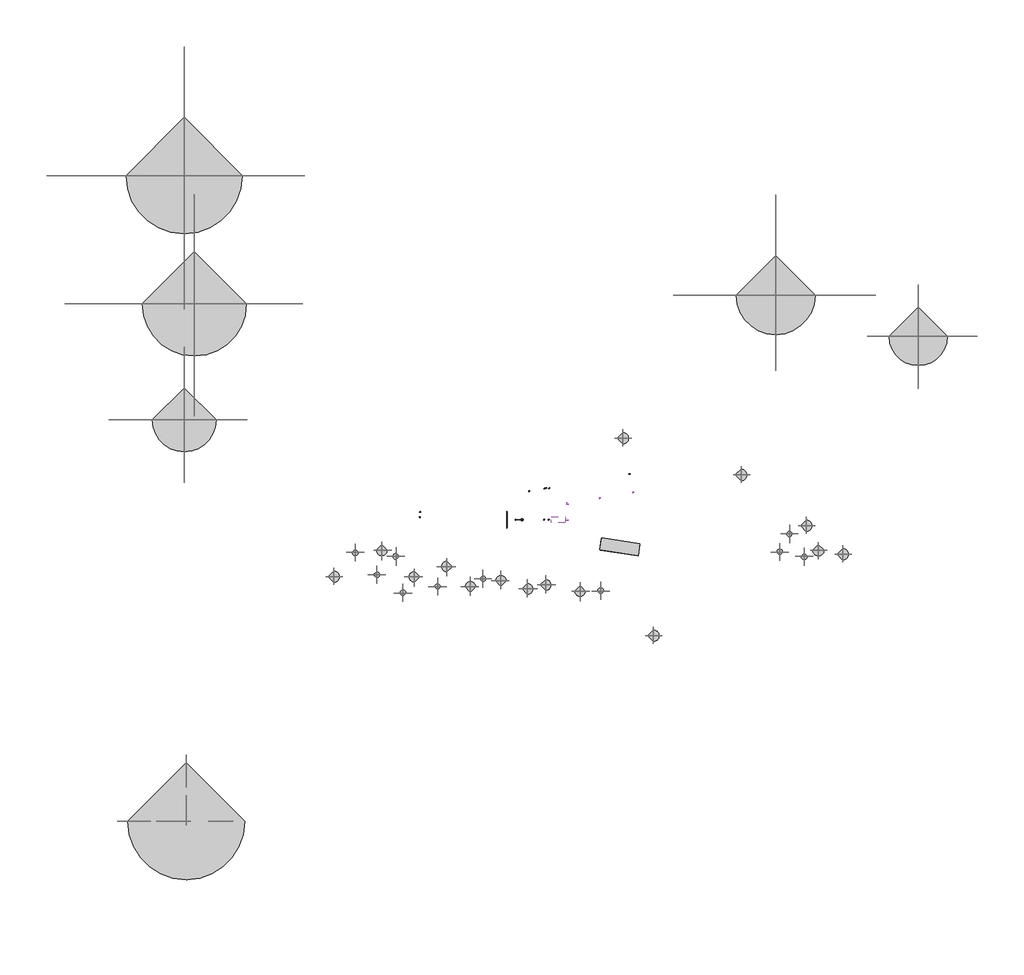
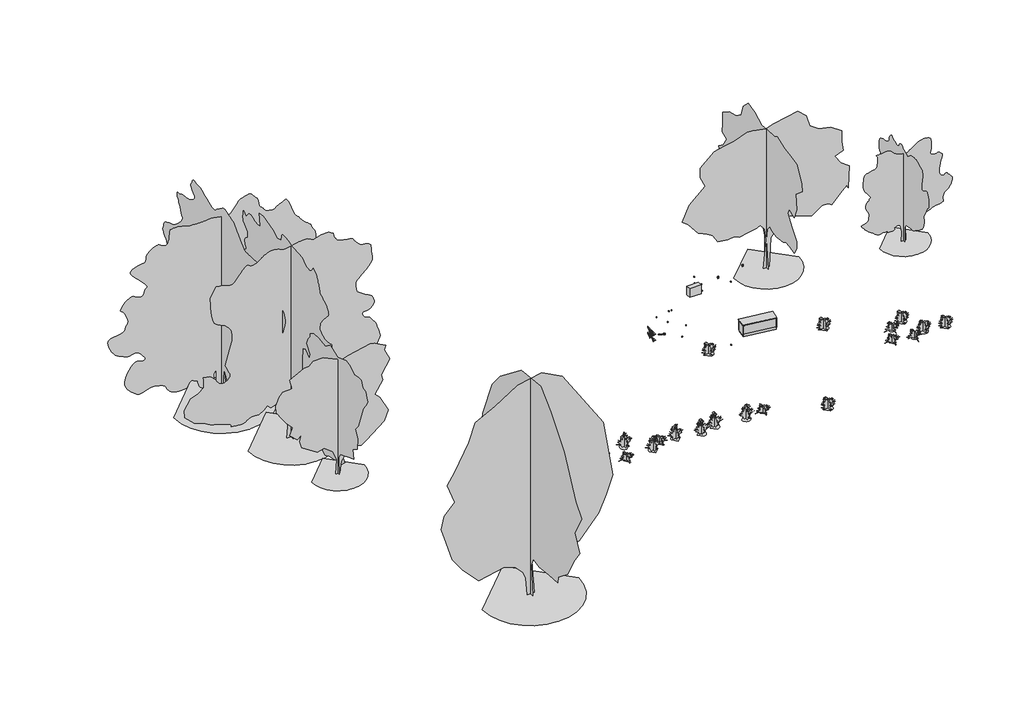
# One storey, incomplete: 31 geographic elements, 17 pipe fittings, 5 plates, 2 light fixtures, 1 flow terminal, 1 furniture element, 1 proxy.
"""IFC4 building model written with IfcOpenShell, lengths in millimetres."""

from ifc_helpers import new_model, si_unit, frame, origin, place, context, project, spatial, ellipse_curve, transform, mapped, element, save
from ifc_brep_helpers import cylinder_surface, advanced_brep
from components import mechanical_equipment_373eb770, flow_terminal_e5477665, furniture_e93fa93d, geographic_element_1685f993, geographic_element_d6f29d71, geographic_element_3415abb8, geographic_element_72aa0b57, geographic_element_be49fed4, geographic_element_74743c11, carvalho_de_shumard_12_2_metros_a262d815, carvalho_americano_12_5_metros_13b38d7d, corniso_9_2_metros_c94a29e7, tue_alta_10251bba, pipe_fitting_cfdc0b9c, pipe_fitting_fefc82c8, pipe_fitting_5beb446b, pipe_fitting_e3d966fa, plate_190a94d3

model = new_model("IFC4")

# Units and contexts
model_context = context("Model", 3, world=origin())
ifc_project = project(units=[si_unit("LENGTHUNIT", "METRE", prefix="MILLI")], contexts=[model_context])

# Site, building, storey
site = spatial("IfcSite", under=ifc_project)
building = spatial("IfcBuilding", under=site)
storey = spatial("IfcBuildingStorey", under=building, Name="MEZANINO", Elevation=3000.0)

# Proxy
placement = place(None, origin())
mechanical_equipment_shape = mechanical_equipment_373eb770(model_context)
element("IfcBuildingElementProxy", 1, Name="Unidade Condensadora - Sistema Split AC - 1-4 kW : Padrão", ObjectType="Unidade Condensadora - Sistema Split AC - 1-4 kW : Padrão", at=placement, inside=storey, context=model_context, shape_type="MappedRepresentation", body=[
    mapped(mechanical_equipment_shape, transform((130056.1500577, -75691.0255541, 5500.0), x_axis=(0.0, 1.0, 0.0), y_axis=(-1.0, 0.0, 0.0), z_axis=(0.0, 0.0, 1.0))),
])

# Flow terminal
flow_terminal_shape = flow_terminal_e5477665(model_context)
element("IfcFlowTerminal", 2, ObjectType="Torneira boia - Fortlev : 1/2\"", at=placement, inside=storey, context=model_context, shape_type="MappedRepresentation", body=[
    mapped(flow_terminal_shape, transform((127588.9607606, -75543.0255541, 3705.0), x_axis=(0.0, 1.0, 0.0), y_axis=(-1.0, 0.0, 0.0), z_axis=(0.0, 0.0, 1.0))),
])

# Furniture
furniture_shape = furniture_e93fa93d(model_context)
element("IfcFurniture", 3, ObjectType="Armário linear baixo : Profundidade 60", at=placement, inside=storey, context=model_context, shape_type="MappedRepresentation", body=[
    mapped(furniture_shape, transform((132726.5084128, -76872.2314943, 3000.0), x_axis=(-0.9890370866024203, 0.1476673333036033, 0.0), y_axis=(-0.1476673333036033, -0.9890370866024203, 0.0), z_axis=(0.0, 0.0, 1.0))),
])

# Geographic elements
geographic_element_shape = geographic_element_1685f993(model_context)
element("IfcGeographicElement", 4, ObjectType="RPC Vegetação - Tropical : Piteira - 0,45 metros", at=placement, inside=storey, context=model_context, shape_type="MappedRepresentation", body=[
    mapped(geographic_element_shape, transform((125984.7157196, -78442.4724758, -824.6936212), x_axis=(0.0, 1.0, 0.0), y_axis=(-1.0, 0.0, 0.0), z_axis=(0.0, 0.0, 1.0))),
])
element("IfcGeographicElement", 5, ObjectType="RPC Vegetação - Tropical : Piteira - 0,45 metros", at=placement, inside=storey, context=model_context, shape_type="MappedRepresentation", body=[
    mapped(geographic_element_shape, transform((123776.1776463, -78843.3106609, -869.2622276), x_axis=(-1.0, 0.0, 0.0), y_axis=(0.0, -1.0, 0.0), z_axis=(0.0, 0.0, 1.0))),
])
element("IfcGeographicElement", 6, ObjectType="RPC Vegetação - Tropical : Piteira - 0,45 metros", at=placement, inside=storey, context=model_context, shape_type="MappedRepresentation", body=[
    mapped(geographic_element_shape, transform((121734.7119017, -77341.9541899, -650.0262358), x_axis=(0.0, -1.0, 0.0), y_axis=(1.0, 0.0, 0.0), z_axis=(0.0, 0.0, 1.0))),
])
element("IfcGeographicElement", 7, ObjectType="RPC Vegetação - Tropical : Piteira - 0,45 metros", at=placement, inside=storey, context=model_context, shape_type="MappedRepresentation", body=[
    mapped(geographic_element_shape, transform((119733.6871628, -77144.8026126, -829.5801195), x_axis=(1.0000000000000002, 0.0, 0.0), y_axis=(0.0, 1.0000000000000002, 0.0), z_axis=(0.0, 0.0, 1.0))),
])
element("IfcGeographicElement", 8, ObjectType="RPC Vegetação - Tropical : Piteira - 0,45 metros", at=placement, inside=storey, context=model_context, shape_type="MappedRepresentation", body=[
    mapped(geographic_element_shape, transform((120776.9345031, -78243.4225721, -902.4526485), x_axis=(0.0, 1.0, 0.0), y_axis=(-1.0, 0.0, 0.0), z_axis=(0.0, 0.0, 1.0))),
])
element("IfcGeographicElement", 9, ObjectType="RPC Vegetação - Tropical : Piteira - 0,45 metros", at=placement, inside=storey, context=model_context, shape_type="MappedRepresentation", body=[
    mapped(geographic_element_shape, transform((122076.2303047, -79144.0449695, -904.3152505), x_axis=(-1.0, 0.0, 0.0), y_axis=(0.0, -1.0, 0.0), z_axis=(0.0, 0.0, 1.0))),
])
element("IfcGeographicElement", 10, ObjectType="RPC Vegetação - Tropical : Piteira - 0,45 metros", at=placement, inside=storey, context=model_context, shape_type="MappedRepresentation", body=[
    mapped(geographic_element_shape, transform((131785.0021808, -79042.9814065, -550.8813332), x_axis=(-1.0, 0.0, 0.0), y_axis=(0.0, -1.0, 0.0), z_axis=(0.0, 0.0, 1.0))),
])
element("IfcGeographicElement", 11, ObjectType="RPC Vegetação - Tropical : Piteira - 0,45 metros", at=placement, inside=storey, context=model_context, shape_type="MappedRepresentation", body=[
    mapped(geographic_element_shape, transform((140576.0686391, -77142.7114103, -354.5874397), x_axis=(-1.0, 0.0, 0.0), y_axis=(0.0, -1.0, 0.0), z_axis=(0.0, 0.0, 1.0))),
])
element("IfcGeographicElement", 12, ObjectType="RPC Vegetação - Tropical : Piteira - 0,45 metros", at=placement, inside=storey, context=model_context, shape_type="MappedRepresentation", body=[
    mapped(geographic_element_shape, transform((141076.0148435, -76242.9706433, -326.0883719), x_axis=(0.0, -1.0, 0.0), y_axis=(1.0, 0.0, 0.0), z_axis=(0.0, 0.0, 1.0))),
])
element("IfcGeographicElement", 13, ObjectType="RPC Vegetação - Tropical : Piteira - 0,45 metros", at=placement, inside=storey, context=model_context, shape_type="MappedRepresentation", body=[
    mapped(geographic_element_shape, transform((141775.8181724, -77342.9461297, -386.7027736), x_axis=(1.0000000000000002, 0.0, 0.0), y_axis=(0.0, 1.0000000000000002, 0.0), z_axis=(0.0, 0.0, 1.0))),
])
geographic_element_2_shape = geographic_element_d6f29d71(model_context)
element("IfcGeographicElement", 14, ObjectType="RPC Vegetação - Tropical : Ave-do-paraíso - 0,9 metros", at=placement, inside=storey, context=model_context, shape_type="MappedRepresentation", body=[
    mapped(geographic_element_2_shape, transform((130775.8283927, -79042.6485025, -588.6315481), x_axis=(1.0, 0.0, 0.0), y_axis=(0.0, 1.0, 0.0), z_axis=(0.0, 0.0, 1.0))),
])
element("IfcGeographicElement", 15, ObjectType="RPC Vegetação - Tropical : Ave-do-paraíso - 0,9 metros", at=placement, inside=storey, context=model_context, shape_type="MappedRepresentation", body=[
    mapped(geographic_element_2_shape, transform((129084.7814515, -78742.8137214, -680.309723), x_axis=(0.0, 1.0, 0.0), y_axis=(-1.0, 0.0, 0.0), z_axis=(0.0, 0.0, 1.0))),
])
element("IfcGeographicElement", 16, ObjectType="RPC Vegetação - Tropical : Ave-do-paraíso - 0,9 metros", at=placement, inside=storey, context=model_context, shape_type="MappedRepresentation", body=[
    mapped(geographic_element_2_shape, transform((126884.9640884, -78543.9232532, -781.4045321), x_axis=(-1.0, 0.0, 0.0), y_axis=(0.0, -1.0, 0.0), z_axis=(0.0, 0.0, 1.0))),
])
element("IfcGeographicElement", 17, ObjectType="RPC Vegetação - Tropical : Ave-do-paraíso - 0,9 metros", at=placement, inside=storey, context=model_context, shape_type="MappedRepresentation", body=[
    mapped(geographic_element_2_shape, transform((124234.751511, -77841.7446178, -791.7470178), x_axis=(0.0, -1.0, 0.0), y_axis=(1.0, 0.0, 0.0), z_axis=(0.0, 0.0, 1.0))),
])
element("IfcGeographicElement", 18, ObjectType="RPC Vegetação - Tropical : Ave-do-paraíso - 0,9 metros", at=placement, inside=storey, context=model_context, shape_type="MappedRepresentation", body=[
    mapped(geographic_element_2_shape, transform((121034.6395294, -77043.4528683, -599.678893), x_axis=(1.0000000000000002, 0.0, 0.0), y_axis=(0.0, 1.0000000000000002, 0.0), z_axis=(0.0, 0.0, 1.0))),
])
element("IfcGeographicElement", 19, ObjectType="RPC Vegetação - Tropical : Ave-do-paraíso - 0,9 metros", at=placement, inside=storey, context=model_context, shape_type="MappedRepresentation", body=[
    mapped(geographic_element_2_shape, transform((128184.7240806, -78942.1784051, -695.0640795), x_axis=(0.0, 1.0, 0.0), y_axis=(-1.0, 0.0, 0.0), z_axis=(0.0, 0.0, 1.0))),
])
element("IfcGeographicElement", 20, ObjectType="RPC Vegetação - Tropical : Ave-do-paraíso - 0,9 metros", at=placement, inside=storey, context=model_context, shape_type="MappedRepresentation", body=[
    mapped(geographic_element_2_shape, transform((125384.9886584, -78842.2594379, -809.2078688), x_axis=(-1.0, 0.0, 0.0), y_axis=(0.0, -1.0, 0.0), z_axis=(0.0, 0.0, 1.0))),
])
element("IfcGeographicElement", 21, ObjectType="RPC Vegetação - Tropical : Ave-do-paraíso - 0,9 metros", at=placement, inside=storey, context=model_context, shape_type="MappedRepresentation", body=[
    mapped(geographic_element_2_shape, transform((122634.7940266, -78342.713309, -873.7347311), x_axis=(0.0, -1.0, 0.0), y_axis=(1.0, 0.0, 0.0), z_axis=(0.0, 0.0, 1.0))),
])
geographic_element_3_shape = geographic_element_3415abb8(model_context)
element("IfcGeographicElement", 22, ObjectType="RPC Vegetação - Tropical : Iuca - 0,6 metros", at=placement, inside=storey, context=model_context, shape_type="MappedRepresentation", body=[
    mapped(geographic_element_3_shape, transform((142475.8181724, -77043.0255541, -370.1726259), x_axis=(1.0, 0.0, 0.0), y_axis=(0.0, 1.0, 0.0), z_axis=(0.0, 0.0, 1.0))),
])
element("IfcGeographicElement", 23, ObjectType="RPC Vegetação - Tropical : Iuca - 0,6 metros", at=placement, inside=storey, context=model_context, shape_type="MappedRepresentation", body=[
    mapped(geographic_element_3_shape, transform((138676.0088836, -73346.0843698, -1121.2914356), x_axis=(0.0, 1.0, 0.0), y_axis=(-1.0, 0.0, 0.0), z_axis=(0.0, 0.0, 1.0))),
])
element("IfcGeographicElement", 24, ObjectType="RPC Vegetação - Tropical : Iuca - 0,6 metros", at=placement, inside=storey, context=model_context, shape_type="MappedRepresentation", body=[
    mapped(geographic_element_3_shape, transform((141876.0148435, -75843.2173584, -304.0342569), x_axis=(0.0, 1.0, 0.0), y_axis=(-1.0, 0.0, 0.0), z_axis=(0.0, 0.0, 1.0))),
])
element("IfcGeographicElement", 25, ObjectType="RPC Vegetação - Tropical : Iuca - 0,6 metros", at=placement, inside=storey, context=model_context, shape_type="MappedRepresentation", body=[
    mapped(geographic_element_3_shape, transform((143676.0148435, -77243.2387117, -381.1965513), x_axis=(0.0, 1.0, 0.0), y_axis=(-1.0, 0.0, 0.0), z_axis=(0.0, 0.0, 1.0))),
])
element("IfcGeographicElement", 26, ObjectType="RPC Vegetação - Tropical : Iuca - 0,6 metros", at=placement, inside=storey, context=model_context, shape_type="MappedRepresentation", body=[
    mapped(geographic_element_3_shape, transform((132875.9852397, -71544.5889442, -1772.6947487), x_axis=(0.0, 1.0, 0.0), y_axis=(-1.0, 0.0, 0.0), z_axis=(0.0, 0.0, 1.0))),
])
element("IfcGeographicElement", 27, ObjectType="RPC Vegetação - Tropical : Iuca - 0,6 metros", at=placement, inside=storey, context=model_context, shape_type="MappedRepresentation", body=[
    mapped(geographic_element_3_shape, transform((118676.0162392, -78343.2528506, -878.5966929), x_axis=(0.0, 1.0, 0.0), y_axis=(-1.0, 0.0, 0.0), z_axis=(0.0, 0.0, 1.0))),
])
element("IfcGeographicElement", 28, ObjectType="RPC Vegetação - Tropical : Iuca - 0,6 metros", at=placement, inside=storey, context=model_context, shape_type="MappedRepresentation", body=[
    mapped(geographic_element_3_shape, transform((134376.0851562, -81241.4302633, 146.4604736), x_axis=(0.0, 1.0, 0.0), y_axis=(-1.0, 0.0, 0.0), z_axis=(0.0, 0.0, 1.0))),
])
geographic_element_4_shape = geographic_element_72aa0b57(model_context)
element("IfcGeographicElement", 29, ObjectType="RPC Árvore - Outono : Amelanchier alnifolia - 7,6 metros", at=placement, inside=storey, context=model_context, shape_type="MappedRepresentation", body=[
    mapped(geographic_element_4_shape, transform((111334.7607912, -70643.5004465, -2320.7324423), x_axis=(1.0, 0.0, 0.0), y_axis=(0.0, 1.0, 0.0), z_axis=(0.0, 0.0, 1.0))),
])
geographic_element_5_shape = geographic_element_be49fed4(model_context)
element("IfcGeographicElement", 30, ObjectType="RPC Árvore - Outono : Faia americana - 6,0 metros", at=placement, inside=storey, context=model_context, shape_type="MappedRepresentation", body=[
    mapped(geographic_element_5_shape, transform((147376.0148435, -66538.3618588, -2784.4215289), x_axis=(1.0, 0.0, 0.0), y_axis=(0.0, 1.0, 0.0), z_axis=(0.0, 0.0, 1.0))),
])
geographic_element_6_shape = geographic_element_74743c11(model_context)
element("IfcGeographicElement", 31, ObjectType="RPC Árvore - Outono : Bordo de açúcar - 13,7 metros", at=placement, inside=storey, context=model_context, shape_type="MappedRepresentation", body=[
    mapped(geographic_element_6_shape, transform((111434.7608783, -90341.3560199, 2012.8881242), x_axis=(1.0, 0.0, 0.0), y_axis=(0.0, 1.0, 0.0), z_axis=(0.0, 0.0, 1.0))),
])
carvalho_de_shumard_12_2_metros_shape = carvalho_de_shumard_12_2_metros_a262d815(model_context)
element("IfcGeographicElement", 32, ObjectType="RPC Árvore - Outono : Carvalho de Shumard - 12,2 metros", at=placement, inside=storey, context=model_context, shape_type="MappedRepresentation", body=[
    mapped(carvalho_de_shumard_12_2_metros_shape, transform((111834.7608016, -64945.1112583, -3648.6012191), x_axis=(1.0, 0.0, 0.0), y_axis=(0.0, 1.0, 0.0), z_axis=(0.0, 0.0, 1.0))),
])
carvalho_americano_12_5_metros_shape = carvalho_americano_12_5_metros_13b38d7d(model_context)
element("IfcGeographicElement", 33, ObjectType="RPC Árvore - Outono : Carvalho-americano - 12,5 metros", at=placement, inside=storey, context=model_context, shape_type="MappedRepresentation", body=[
    mapped(carvalho_americano_12_5_metros_shape, transform((111334.812935, -58642.8288592, -5091.4369081), x_axis=(1.0, 0.0, 0.0), y_axis=(0.0, 1.0, 0.0), z_axis=(0.0, 0.0, 1.0))),
])
corniso_9_2_metros_shape = corniso_9_2_metros_c94a29e7(model_context)
element("IfcGeographicElement", 34, ObjectType="RPC Árvore - Outono : Corniso - 9,2 metros", at=placement, inside=storey, context=model_context, shape_type="MappedRepresentation", body=[
    mapped(corniso_9_2_metros_shape, transform((140376.0148435, -64520.2774656, -3255.3078873), x_axis=(1.0, 0.0, 0.0), y_axis=(0.0, 1.0, 0.0), z_axis=(0.0, 0.0, 1.0))),
])

# Light fixtures
tue_alta_shape = tue_alta_10251bba(model_context)
element("IfcLightFixture", 35, ObjectType="Ponto de Arandela : arandela", at=placement, inside=storey, context=model_context, shape_type="MappedRepresentation", body=[
    mapped(tue_alta_shape, transform((133378.5255361, -74212.5064705, 5200.0), x_axis=(0.9848077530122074, 0.17364817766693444, 0.0), y_axis=(0.0, 0.0, 1.0), z_axis=(0.17364817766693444, -0.9848077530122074, 0.0))),
])
element("IfcLightFixture", 36, ObjectType="Ponto de Arandela : arandela", at=placement, inside=storey, context=model_context, shape_type="MappedRepresentation", body=[
    mapped(tue_alta_shape, transform((131744.6248252, -74500.6072496, 5200.0), x_axis=(0.9848077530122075, 0.17364817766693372, 0.0), y_axis=(0.0, 0.0, 1.0), z_axis=(0.17364817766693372, -0.9848077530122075, 0.0))),
])

# Pipe fittings
pipe_fitting_shape = pipe_fitting_cfdc0b9c(model_context)
element("IfcPipeFitting", 37, ObjectType="Joelho 45_90 - Agua Fria_Soldavel : Joelho 45_90 - Agua Fria_Soldavel", at=placement, inside=storey, context=model_context, shape_type="MappedRepresentation", body=[
    mapped(pipe_fitting_shape, transform((133206.6138641, -73299.1142723, 3705.0), x_axis=(0.9848077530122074, 0.1736481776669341, 0.0), y_axis=(0.0, 0.0, -1.0), z_axis=(-0.17364817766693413, 0.9848077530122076, 0.0))),
])
element("IfcPipeFitting", 38, ObjectType="Joelho 45_90 - Agua Fria_Soldavel : Joelho 45_90 - Agua Fria_Soldavel", at=placement, inside=storey, context=model_context, shape_type="MappedRepresentation", body=[
    mapped(pipe_fitting_shape, transform((133206.6138641, -73299.1142723, -300.0), x_axis=(0.0, 0.0, -1.0), y_axis=(1.0, 0.0, 0.0), z_axis=(0.0, -1.0, 0.0))),
])
element("IfcPipeFitting", 39, ObjectType="Joelho 45_90 - Agua Fria_Soldavel : Joelho 45_90 - Agua Fria_Soldavel", at=placement, inside=storey, context=model_context, shape_type="MappedRepresentation", body=[
    mapped(pipe_fitting_shape, transform((122902.8144143, -75430.7653095, -500.0), x_axis=(0.0, 0.0, -1.0), y_axis=(0.0, 1.0, 0.0), z_axis=(1.0, 0.0, 0.0))),
])
element("IfcPipeFitting", 40, ObjectType="Joelho 45_90 - Agua Fria_Soldavel : Joelho 45_90 - Agua Fria_Soldavel", at=placement, inside=storey, context=model_context, shape_type="MappedRepresentation", body=[
    mapped(pipe_fitting_shape, transform((129243.699438, -75543.0255541, 3705.0), x_axis=(1.0, 0.0, 0.0), y_axis=(0.0, 1.0, 0.0), z_axis=(0.0, 0.0, 1.0))),
])
element("IfcPipeFitting", 41, ObjectType="Joelho 45_90 - Agua Fria_Soldavel : Joelho 45_90 - Agua Fria_Soldavel", at=placement, inside=storey, context=model_context, shape_type="MappedRepresentation", body=[
    mapped(pipe_fitting_shape, transform((129016.0148435, -75543.0255541, 3055.0), x_axis=(1.0, 0.0, 0.0), y_axis=(0.0, 1.0, 0.0), z_axis=(0.0, 0.0, 1.0))),
])
element("IfcPipeFitting", 42, ObjectType="Joelho 45_90 - Agua Fria_Soldavel : Joelho 45_90 - Agua Fria_Soldavel", at=placement, inside=storey, context=model_context, shape_type="MappedRepresentation", body=[
    mapped(pipe_fitting_shape, transform((129116.0148435, -73984.1297757, 3705.0), x_axis=(0.0, 0.0, 1.0), y_axis=(-0.9848077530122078, -0.17364817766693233, 0.0), z_axis=(0.17364817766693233, -0.9848077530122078, 0.0))),
])
pipe_fitting_2_shape = pipe_fitting_fefc82c8(model_context)
element("IfcPipeFitting", 43, ObjectType="Cotovelo - Cobre : Cotovelo - Cobre", at=placement, inside=storey, context=model_context, shape_type="MappedRepresentation", body=[
    mapped(pipe_fitting_2_shape, transform((130141.1500577, -75591.0255541, 5991.0), x_axis=(1.0, 0.0, 0.0), y_axis=(0.0, 1.0, 0.0), z_axis=(0.0, 0.0, 1.0))),
])
element("IfcPipeFitting", 44, ObjectType="Cotovelo - Cobre : Cotovelo - Cobre", at=placement, inside=storey, context=model_context, shape_type="MappedRepresentation", body=[
    mapped(pipe_fitting_2_shape, transform((130141.1500577, -74777.1632818, 5991.0), x_axis=(0.0, 1.0, 0.0), y_axis=(0.0, 0.0, -1.0), z_axis=(-1.0, 0.0, 0.0))),
])
element("IfcPipeFitting", 45, ObjectType="Cotovelo - Cobre : Cotovelo - Cobre", at=placement, inside=storey, context=model_context, shape_type="MappedRepresentation", body=[
    mapped(pipe_fitting_2_shape, transform((130141.1500577, -74777.1632818, 5145.0), x_axis=(0.0, 0.0, -1.0), y_axis=(1.0, 0.0, 0.0), z_axis=(0.0, -1.0, 0.0))),
])
element("IfcPipeFitting", 46, ObjectType="Cotovelo - Cobre : Cotovelo - Cobre", at=placement, inside=storey, context=model_context, shape_type="MappedRepresentation", body=[
    mapped(pipe_fitting_2_shape, transform((130176.1500577, -75591.0255541, 5575.0), x_axis=(1.0, 0.0, 0.0), y_axis=(0.0, 1.0, 0.0), z_axis=(0.0, 0.0, 1.0))),
])
element("IfcPipeFitting", 47, ObjectType="Cotovelo - Cobre : Cotovelo - Cobre", at=placement, inside=storey, context=model_context, shape_type="MappedRepresentation", body=[
    mapped(pipe_fitting_2_shape, transform((130176.1500577, -74763.1632818, 5575.0), x_axis=(0.0, 1.0, 0.0), y_axis=(0.0, 0.0, -1.0), z_axis=(-1.0, 0.0, 0.0))),
])
element("IfcPipeFitting", 48, ObjectType="Cotovelo - Cobre : Cotovelo - Cobre", at=placement, inside=storey, context=model_context, shape_type="MappedRepresentation", body=[
    mapped(pipe_fitting_2_shape, transform((130176.1500577, -74763.1632818, 5195.0), x_axis=(0.0, 0.0, -1.0), y_axis=(1.0, 0.0, 0.0), z_axis=(0.0, -1.0, 0.0))),
])
pipe_fitting_3_shape = pipe_fitting_5beb446b(model_context)
element("IfcPipeFitting", 49, ObjectType="Joelho 45_90 - Agua Fria_Soldavel : Joelho 45_90 - Agua Fria_Soldavel", at=placement, inside=storey, context=model_context, shape_type="MappedRepresentation", body=[
    mapped(pipe_fitting_3_shape, transform((122902.8144143, -75154.9586903, -500.0), x_axis=(-0.9848077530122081, -0.17364817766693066, 0.0), y_axis=(0.17364817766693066, -0.9848077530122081, 0.0), z_axis=(0.0, 0.0, 1.0))),
])
element("IfcPipeFitting", 50, ObjectType="Joelho 45_90 - Agua Fria_Soldavel : Joelho 45_90 - Agua Fria_Soldavel", at=placement, inside=storey, context=model_context, shape_type="MappedRepresentation", body=[
    mapped(pipe_fitting_3_shape, transform((129243.699438, -73997.8830079, 3705.0), x_axis=(-0.984807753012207, -0.17364817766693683, 0.0), y_axis=(0.17364817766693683, -0.984807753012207, 0.0), z_axis=(0.0, 0.0, 1.0))),
])
element("IfcPipeFitting", 51, ObjectType="Joelho 45_90 - Agua Fria_Soldavel : Joelho 45_90 - Agua Fria_Soldavel", at=placement, inside=storey, context=model_context, shape_type="MappedRepresentation", body=[
    mapped(pipe_fitting_3_shape, transform((129016.0148435, -74001.7624738, 3055.0), x_axis=(-0.9848077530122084, -0.1736481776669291, 0.0), y_axis=(0.1736481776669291, -0.9848077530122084, 0.0), z_axis=(0.0, 0.0, 1.0))),
])
element("IfcPipeFitting", 52, ObjectType="Joelho 45_90 - Agua Fria_Soldavel : Joelho 45_90 - Agua Fria_Soldavel", at=placement, inside=storey, context=model_context, shape_type="MappedRepresentation", body=[
    mapped(pipe_fitting_3_shape, transform((128267.1607606, -74133.8056532, 3705.0), x_axis=(-0.9848077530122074, -0.17364817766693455, 0.0), y_axis=(0.17364817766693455, -0.9848077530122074, 0.0), z_axis=(0.0, 0.0, 1.0))),
])
pipe_fitting_4_shape = pipe_fitting_e3d966fa(model_context)
element("IfcPipeFitting", 53, ObjectType="Cotovelo - Cobre : Cotovelo - Cobre", at=placement, inside=storey, context=model_context, shape_type="MappedRepresentation", body=[
    mapped(pipe_fitting_4_shape, transform((130116.0148435, -74727.1632818, 5170.0), x_axis=(0.0, -1.0, 0.0), y_axis=(1.0, 0.0, 0.0), z_axis=(0.0, 0.0, 1.0))),
])

# Plates
element("IfcPlate", 54, ObjectType="ZZK PilotoBIM : ZZK PilotoBIM", at=placement, inside=storey, context=model_context, shape_type="AdvancedBrep", body=[
    advanced_brep(
    [(127163.5148435, -75543.0255541, 3715.0074087), (127188.5148435, -75543.0255541, 3715.0074087), (127188.5148435, -75166.5165047, 3715.0074087), (127163.5148435, -75166.5165047, 3715.0074087), (127188.5148435, -75354.7710294, 3527.0088905), (127163.5148435, -75354.7710294, 3527.0088905)],
    [
        (0, 1, ellipse_curve(frame((127176.0148435, -75543.0255541, 3715.0074087), z_axis=(0.0, 0.3823691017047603, 0.9240096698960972), x_axis=(0.0, -0.9240096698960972, 0.38236910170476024)), 32.690926, 12.5)),
        (1, 2),
        (2, 3, ellipse_curve(frame((127176.0148435, -75166.5165047, 3715.0074087), z_axis=(0.0, -0.3823691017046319, 0.9240096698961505), x_axis=(0.0, -0.9240096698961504, -0.382369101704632)), 32.690926, 12.5)),
        (3, 0),
        (1, 0, ellipse_curve(frame((127176.0148435, -75543.0255541, 3715.0074087), z_axis=(0.0, 0.3823691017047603, 0.9240096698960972), x_axis=(0.0, -0.9240096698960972, 0.38236910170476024)), 32.690926, 12.5)),
        (3, 2, ellipse_curve(frame((127176.0148435, -75166.5165047, 3715.0074087), z_axis=(0.0, -0.3823691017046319, 0.9240096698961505), x_axis=(0.0, -0.9240096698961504, -0.382369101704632)), 32.690926, 12.5)),
        (2, 4),
        (4, 5, ellipse_curve(frame((127176.0148435, -75354.7710294, 3527.0088905), z_axis=(0.0, 1.0, 0.0), x_axis=(0.0, 0.0, 1.0)), 17.6656537, 12.5)),
        (5, 3),
        (5, 4, ellipse_curve(frame((127176.0148435, -75354.7710294, 3527.0088905), z_axis=(0.0, 1.0, 0.0), x_axis=(0.0, 0.0, 1.0)), 17.6656537, 12.5)),
        (4, 1),
        (0, 5),
    ],
    [
        cylinder_surface(frame((127176.0148435, -75543.0255541, 3715.0074087), z_axis=(0.0, -1.0, 0.0), x_axis=(0.0, 0.0, 1.0)), 12.5),
        cylinder_surface(frame((127176.0148435, -75166.5165047, 3715.0074087), z_axis=(0.0, 0.7075877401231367, 0.7066254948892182), x_axis=(0.0, 0.7066254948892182, -0.7075877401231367)), 12.5),
        cylinder_surface(frame((127176.0148435, -75354.7710294, 3527.0088905), z_axis=(0.0, 0.7075877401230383, -0.7066254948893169), x_axis=(0.0, -0.7066254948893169, -0.7075877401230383)), 12.5),
    ],
    [
        (0, [[1, 2, 3, 4]]),
        (0, [[5, -4, 6, -2]]),
        (1, [[-3, 7, 8, 9]]),
        (1, [[-6, -9, 10, -7]]),
        (2, [[-8, 11, -1, 12]]),
        (2, [[-10, -12, -5, -11]]),
    ],
),
])
element("IfcPlate", 55, ObjectType="ZZK PilotoBIM : ZZK PilotoBIM", at=placement, inside=storey, context=model_context, shape_type="AdvancedBrep", body=[
    advanced_brep(
    [(127163.5148435, -75919.5346035, 3715.0074087), (127188.5148435, -75919.5346035, 3715.0074087), (127188.5148435, -75543.0255541, 3715.0074087), (127163.5148435, -75543.0255541, 3715.0074087), (127188.5148435, -75731.2800788, 3527.0088905), (127163.5148435, -75731.2800788, 3527.0088905)],
    [
        (0, 1, ellipse_curve(frame((127176.0148435, -75919.5346035, 3715.0074087), z_axis=(0.0, 0.38236910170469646, 0.9240096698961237), x_axis=(0.0, -0.9240096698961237, 0.38236910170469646)), 32.690926, 12.5)),
        (1, 2),
        (2, 3, ellipse_curve(frame((127176.0148435, -75543.0255541, 3715.0074087), z_axis=(0.0, -0.3823691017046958, 0.9240096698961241), x_axis=(0.0, -0.924009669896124, -0.3823691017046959)), 32.690926, 12.5)),
        (3, 0),
        (1, 0, ellipse_curve(frame((127176.0148435, -75919.5346035, 3715.0074087), z_axis=(0.0, 0.38236910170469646, 0.9240096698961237), x_axis=(0.0, -0.9240096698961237, 0.38236910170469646)), 32.690926, 12.5)),
        (3, 2, ellipse_curve(frame((127176.0148435, -75543.0255541, 3715.0074087), z_axis=(0.0, -0.3823691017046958, 0.9240096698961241), x_axis=(0.0, -0.924009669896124, -0.3823691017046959)), 32.690926, 12.5)),
        (2, 4),
        (4, 5, ellipse_curve(frame((127176.0148435, -75731.2800788, 3527.0088905), z_axis=(0.0, 1.0, 0.0), x_axis=(0.0, 0.0, 1.0)), 17.6656537, 12.5)),
        (5, 3),
        (5, 4, ellipse_curve(frame((127176.0148435, -75731.2800788, 3527.0088905), z_axis=(0.0, 1.0, 0.0), x_axis=(0.0, 0.0, 1.0)), 17.6656537, 12.5)),
        (4, 1),
        (0, 5),
    ],
    [
        cylinder_surface(frame((127176.0148435, -75919.5346035, 3715.0074087), z_axis=(0.0, -1.0, 0.0), x_axis=(0.0, 0.0, 1.0)), 12.5),
        cylinder_surface(frame((127176.0148435, -75543.0255541, 3715.0074087), z_axis=(0.0, 0.7075877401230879, 0.7066254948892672), x_axis=(0.0, 0.7066254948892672, -0.7075877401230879)), 12.5),
        cylinder_surface(frame((127176.0148435, -75731.2800788, 3527.0088905), z_axis=(0.0, 0.7075877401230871, -0.706625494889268), x_axis=(0.0, -0.706625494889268, -0.7075877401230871)), 12.5),
    ],
    [
        (0, [[1, 2, 3, 4]]),
        (0, [[5, -4, 6, -2]]),
        (1, [[-3, 7, 8, 9]]),
        (1, [[-6, -9, 10, -7]]),
        (2, [[-8, 11, -1, 12]]),
        (2, [[-10, -12, -5, -11]]),
    ],
),
])
element("IfcPlate", 56, ObjectType="ZZK PilotoBIM : ZZK PilotoBIM", at=placement, inside=storey, context=model_context, shape_type="AdvancedBrep", body=[
    advanced_brep(
    [(127163.5148435, -75731.2800788, 3903.005927), (127188.5148435, -75731.2800788, 3903.005927), (127188.5148435, -75354.7710294, 3903.005927), (127163.5148435, -75354.7710294, 3903.005927), (127188.5148435, -75543.0255541, 3715.0074087), (127163.5148435, -75543.0255541, 3715.0074087)],
    [
        (0, 1, ellipse_curve(frame((127176.0148435, -75731.2800788, 3903.005927), z_axis=(0.0, 0.38236910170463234, 0.9240096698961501), x_axis=(0.0, -0.9240096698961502, 0.3823691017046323)), 32.690926, 12.5)),
        (1, 2),
        (2, 3, ellipse_curve(frame((127176.0148435, -75354.7710294, 3903.005927), z_axis=(0.0, -0.3823691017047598, 0.9240096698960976), x_axis=(0.0, -0.9240096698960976, -0.3823691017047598)), 32.690926, 12.5)),
        (3, 0),
        (1, 0, ellipse_curve(frame((127176.0148435, -75731.2800788, 3903.005927), z_axis=(0.0, 0.38236910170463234, 0.9240096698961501), x_axis=(0.0, -0.9240096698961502, 0.3823691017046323)), 32.690926, 12.5)),
        (3, 2, ellipse_curve(frame((127176.0148435, -75354.7710294, 3903.005927), z_axis=(0.0, -0.3823691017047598, 0.9240096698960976), x_axis=(0.0, -0.9240096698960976, -0.3823691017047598)), 32.690926, 12.5)),
        (2, 4),
        (4, 5, ellipse_curve(frame((127176.0148435, -75543.0255541, 3715.0074087), z_axis=(0.0, 1.0, 0.0), x_axis=(0.0, 0.0, 1.0)), 17.6656537, 12.5)),
        (5, 3),
        (5, 4, ellipse_curve(frame((127176.0148435, -75543.0255541, 3715.0074087), z_axis=(0.0, 1.0, 0.0), x_axis=(0.0, 0.0, 1.0)), 17.6656537, 12.5)),
        (0, 5),
        (4, 1),
    ],
    [
        cylinder_surface(frame((127176.0148435, -75731.2800788, 3903.005927), z_axis=(0.0, -1.0, 0.0), x_axis=(0.0, 0.0, 1.0)), 12.5),
        cylinder_surface(frame((127176.0148435, -75354.7710294, 3903.005927), z_axis=(0.0, 0.707587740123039, 0.7066254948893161), x_axis=(0.0, 0.7066254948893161, -0.707587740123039)), 12.5),
        cylinder_surface(frame((127176.0148435, -75543.0255541, 3715.0074087), z_axis=(0.0, 0.707587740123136, -0.706625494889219), x_axis=(0.0, -0.706625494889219, -0.707587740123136)), 12.5),
    ],
    [
        (0, [[1, 2, 3, 4]]),
        (0, [[-2, 5, -4, 6]]),
        (1, [[-3, 7, 8, 9]]),
        (1, [[-6, -9, 10, -7]]),
        (2, [[-1, 11, -8, 12]]),
        (2, [[-5, -12, -10, -11]]),
    ],
),
])
plate_shape = plate_190a94d3(model_context)
element("IfcPlate", 57, ObjectType="ZZK PilotoBIM : ZZK PilotoBIM", at=placement, inside=storey, context=model_context, shape_type="MappedRepresentation", body=[
    mapped(plate_shape, transform((127176.0148435, -69635.2800788, -1051.6617275), x_axis=(0.0, -1.0, 0.0), y_axis=(0.0, 0.0, 1.0), z_axis=(-1.0, 0.0, 0.0))),
])
element("IfcPlate", 58, ObjectType="ZZK PilotoBIM : ZZK PilotoBIM", at=placement, inside=storey, context=model_context, shape_type="MappedRepresentation", body=[
    mapped(plate_shape, transform((127176.0148435, -69258.7710294, -1051.6617275), x_axis=(0.0, -1.0, 0.0), y_axis=(0.0, 0.0, 1.0), z_axis=(-1.0, 0.0, 0.0))),
])

save(model, "model.ifc")
